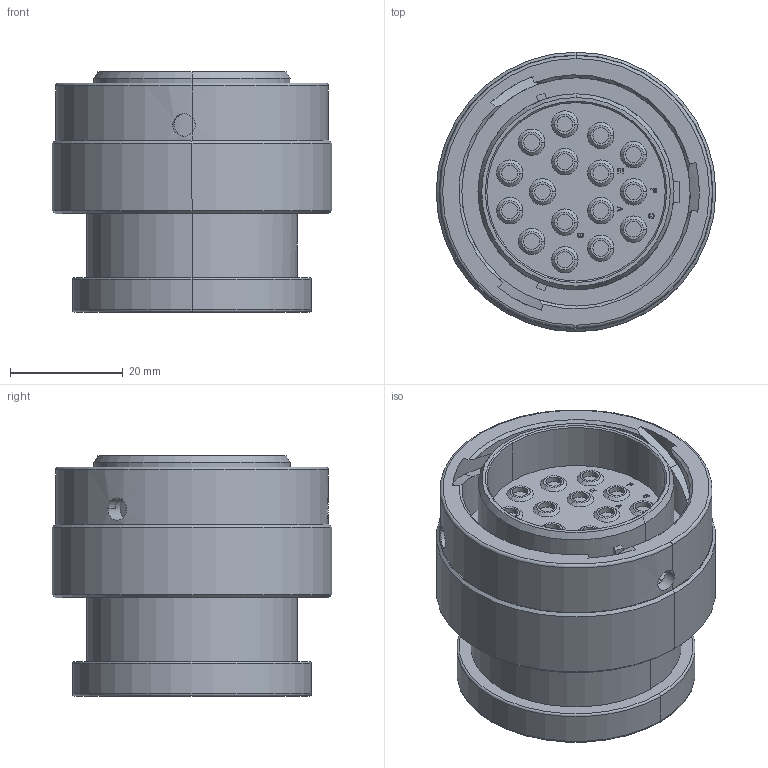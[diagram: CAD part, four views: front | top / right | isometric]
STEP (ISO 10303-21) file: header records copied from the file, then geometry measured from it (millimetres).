
FILE_DESCRIPTION((''),'2;1');
FILE_NAME('C-HDP26-24-16PN-L017','2013-06-24T',('workeradm'),('Tyco Electronics Ltd.'),'PRO/ENGINEER BY PARAMETRIC TECHNOLOGY CORPORATION, 2011490','PRO/ENGINEER BY PARAMETRIC TECHNOLOGY CORPORATION, 2011490','');
FILE_SCHEMA(('AUTOMOTIVE_DESIGN { 1 0 10303 214 1 1 1 1 }'));
Length unit declared in the file: millimetre
Products named in the file (1): C-HDP26-24-16PN-L017
Bounding box: 49.53 x 49.53 x 42.55 mm (x, y, z)
Volume: 49920.9 mm3; surface area: 16131.4 mm2
Topology: 1 solids, 1 shells, 474 faces, 1123 edges, 728 vertices
Faces by surface type: plane 219, cylinder 136, cone 43, torus 42, bspline 34
Entity records: 16006 total; most frequent: CARTESIAN_POINT 4641, DIRECTION 2300, ORIENTED_EDGE 2246, EDGE_CURVE 1123, AXIS2_PLACEMENT_3D 855, VERTEX_POINT 728, VECTOR 590, LINE 590
